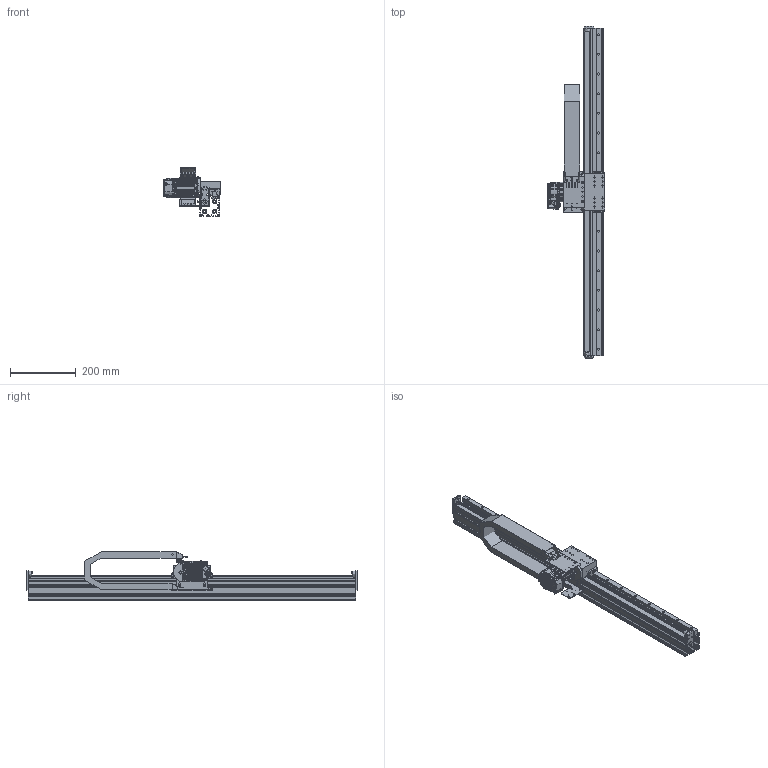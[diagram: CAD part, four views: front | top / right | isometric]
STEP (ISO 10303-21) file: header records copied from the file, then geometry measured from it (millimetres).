
FILE_DESCRIPTION( ( '' ), ' ' );
FILE_NAME( '/vol/tmp/translate-17849294241713280239/5ce2bc5e001c0c15e4a85a90.step', '2019-05-20T14:40:35', ( '' ), ( '' ), ' ', ' ', ' ' );
FILE_SCHEMA( ( 'AUTOMOTIVE_DESIGN { 1 0 10303 214 1 1 1 1 }' ) );
Length unit declared in the file: metre
Products named in the file (80): ALLOY SCREW T-BLOCK & CAP <14>; 103878-001 8mm T-BLOCK M4; 100001-8100 M4-.70 X 16 ALLOY SHCS; 15mm RAIL CAP; FASTENERS <1>; #6671; 103331-001 NUT PLATE; ALLOY SCREW T-BLOCK & CAP <12>; ALLOY SCREW T-BLOCK & CAP <15>; ALLOY SCREW T-BLOCK & CAP <1>; FASTENERS <4>; ALLOY SCREW T-BLOCK & CAP <6>; ALLOY SCREW T-BLOCK & CAP <10>; FASTENERS <6>; FASTENERS <2>; ALLOY SCREW T-BLOCK & CAP <17>; ALLOY SCREW T-BLOCK & CAP <3>; ALLOY SCREW T-BLOCK & CAP <5>; FASTENERS <7>; ALLOY SCREW T-BLOCK & CAP <7>; ALLOY SCREW T-BLOCK & CAP <11>; ALLOY SCREW T-BLOCK & CAP <13>; ALLOY SCREW T-BLOCK & CAP <4>; FASTENERS <3>; ALLOY SCREW T-BLOCK & CAP <16>; ALLOY SCREW T-BLOCK & CAP <2>; ALLOY SCREW T-BLOCK & CAP <9>; FASTENERS <5>; ALLOY SCREW T-BLOCK & CAP <8>; RAIL ALLOY <1>; 101069-1000 BOSCH 15mm RAIL; CPM-23XX & PINION <1>; GENERIC CPM 232X; 104885-009 SBL-L PINION GEAR .375 BORE; 100013-007 M4 X 4 SS SET SCREW; TRAY <1>; 103551-1000 SBL-L BELT TRAY; 102610-007 TAPE 5/8 WIDE; 103307-001 T5 X 16mm BELTING; SBL-L CPM-23XX MOUNT <1>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
Assembly tree (180 placements, depth 5):
  Assem1
    102977-001 LINKS
    103307-001 T5 X 16mm BELTING
    1000 CHASSIS <1>
      104108-1000 30-SERIES PROFILE 60X60
      RAIL ALLOY <1>
        101069-1000 BOSCH 15mm RAIL
        ALLOY SCREW T-BLOCK & CAP <2>
          103878-001 8mm T-BLOCK M4
          15mm RAIL CAP
          100001-8100 M4-.70 X 16 ALLOY SHCS
        ALLOY SCREW T-BLOCK & CAP <11>
          103878-001 8mm T-BLOCK M4
          100001-8100 M4-.70 X 16 ALLOY SHCS
          15mm RAIL CAP
        ALLOY SCREW T-BLOCK & CAP <13>
          100001-8100 M4-.70 X 16 ALLOY SHCS
          103878-001 8mm T-BLOCK M4
          15mm RAIL CAP
        ALLOY SCREW T-BLOCK & CAP <14>
          103878-001 8mm T-BLOCK M4
          100001-8100 M4-.70 X 16 ALLOY SHCS
          15mm RAIL CAP
        ALLOY SCREW T-BLOCK & CAP <12>
          15mm RAIL CAP
          100001-8100 M4-.70 X 16 ALLOY SHCS
          103878-001 8mm T-BLOCK M4
        ALLOY SCREW T-BLOCK & CAP <1>
          103878-001 8mm T-BLOCK M4
          15mm RAIL CAP
          100001-8100 M4-.70 X 16 ALLOY SHCS
        ALLOY SCREW T-BLOCK & CAP <9>
          15mm RAIL CAP
          100001-8100 M4-.70 X 16 ALLOY SHCS
          103878-001 8mm T-BLOCK M4
        ALLOY SCREW T-BLOCK & CAP <6>
          103878-001 8mm T-BLOCK M4
          100001-8100 M4-.70 X 16 ALLOY SHCS
          15mm RAIL CAP
        ALLOY SCREW T-BLOCK & CAP <7>
          103878-001 8mm T-BLOCK M4
          15mm RAIL CAP
          100001-8100 M4-.70 X 16 ALLOY SHCS
        ALLOY SCREW T-BLOCK & CAP <4>
          15mm RAIL CAP
          100001-8100 M4-.70 X 16 ALLOY SHCS
          103878-001 8mm T-BLOCK M4
        ALLOY SCREW T-BLOCK & CAP <10>
          15mm RAIL CAP
          100001-8100 M4-.70 X 16 ALLOY SHCS
          103878-001 8mm T-BLOCK M4
        ALLOY SCREW T-BLOCK & CAP <3>
          100001-8100 M4-.70 X 16 ALLOY SHCS
          103878-001 8mm T-BLOCK M4
          15mm RAIL CAP
        ALLOY SCREW T-BLOCK & CAP <8>
          15mm RAIL CAP
          100001-8100 M4-.70 X 16 ALLOY SHCS
          103878-001 8mm T-BLOCK M4
        ALLOY SCREW T-BLOCK & CAP <5>
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Bounding box: 174.1 x 1012.7 x 148.46 mm (x, y, z)
Topology: 166 solids, 173 shells, 7187 faces, 17885 edges, 11200 vertices
Faces by surface type: plane 2682, cylinder 1852, bspline 1055, torus 829, cone 686, extrusion 42, sphere 41
Full cylindrical faces by diameter (mm): 1.587 x1, 1.6 x1, 1.846 x1, 2 x1, 2.096 x1, 2.261 x7, 2.44 x114, 2.489 x4, 2.5 x20, 2.667 x2, 2.845 x7, 2.9 x2, 2.946 x7, 3 x16, 3.048 x4, 3.09 x4, 3.175 x2, 3.2 x8, 3.277 x8, 3.3 x10, 3.962 x2, 3.988 x29, 4 x31, 4.2 x9, 4.216 x8, 4.4 x17, 4.5 x12, 4.648 x7, 5 x11, 5.004 x6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
Entity records: 295807 total; most frequent: CARTESIAN_POINT 123744, ORIENTED_EDGE 26410, DIRECTION 25646, EDGE_CURVE 13205, AXIS2_PLACEMENT_3D 10212, VERTEX_POINT 8566, EDGE_LOOP 6814, FACE_OUTER_BOUND 6136
